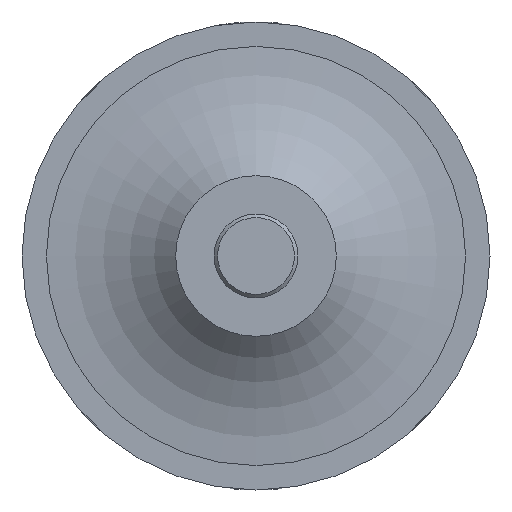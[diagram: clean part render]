
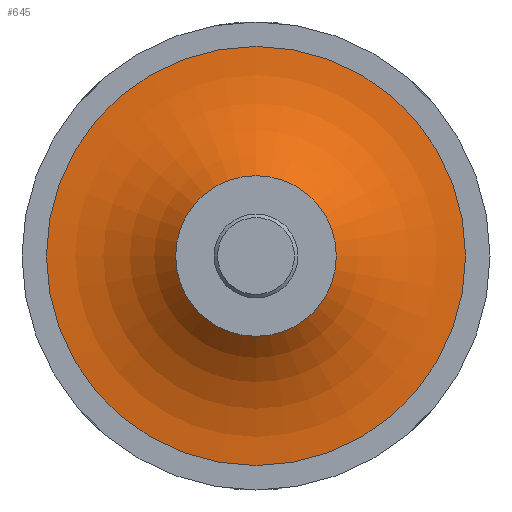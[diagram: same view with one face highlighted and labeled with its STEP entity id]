
A CAD part, front view. The second image highlights one B-rep face of the part: STEP entity #645.
In plain terms, the highlighted toroidal (fillet/blend) face has major radius 30 mm and minor radius 25.391 mm.
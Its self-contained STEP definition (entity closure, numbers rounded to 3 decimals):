
#23=TOROIDAL_SURFACE('',#724,30.,25.391);
#61=CIRCLE('',#723,30.);
#62=CIRCLE('',#725,25.391);
#63=CIRCLE('',#726,11.5);
#114=FACE_OUTER_BOUND('',#169,.T.);
#169=EDGE_LOOP('',(#565,#566,#567,#568));
#325=VERTEX_POINT('',#1507);
#326=VERTEX_POINT('',#1510);
#407=EDGE_CURVE('',#325,#325,#61,.T.);
#408=EDGE_CURVE('',#325,#326,#62,.T.);
#409=EDGE_CURVE('',#326,#326,#63,.T.);
#565=ORIENTED_EDGE('',*,*,#407,.T.);
#566=ORIENTED_EDGE('',*,*,#408,.T.);
#567=ORIENTED_EDGE('',*,*,#409,.F.);
#568=ORIENTED_EDGE('',*,*,#408,.F.);
#645=ADVANCED_FACE('',(#114),#23,.F.);
#723=AXIS2_PLACEMENT_3D('',#1508,#861,#862);
#724=AXIS2_PLACEMENT_3D('',#1509,#863,#864);
#725=AXIS2_PLACEMENT_3D('',#1511,#865,#866);
#726=AXIS2_PLACEMENT_3D('',#1512,#867,#868);
#861=DIRECTION('center_axis',(0.,-1.,0.));
#862=DIRECTION('ref_axis',(1.,0.,0.));
#863=DIRECTION('center_axis',(0.,-1.,0.));
#864=DIRECTION('ref_axis',(0.,0.,-1.));
#865=DIRECTION('center_axis',(-1.,0.,0.));
#866=DIRECTION('ref_axis',(0.,0.,1.));
#867=DIRECTION('center_axis',(0.,-1.,0.));
#868=DIRECTION('ref_axis',(1.,0.,0.));
#1507=CARTESIAN_POINT('',(0.,8.,30.));
#1508=CARTESIAN_POINT('Origin',(0.,8.,0.));
#1509=CARTESIAN_POINT('Origin',(0.,-17.391,0.));
#1510=CARTESIAN_POINT('',(0.,0.,11.5));
#1511=CARTESIAN_POINT('Origin',(0.,-17.391,
30.));
#1512=CARTESIAN_POINT('Origin',(0.,0.,0.));
